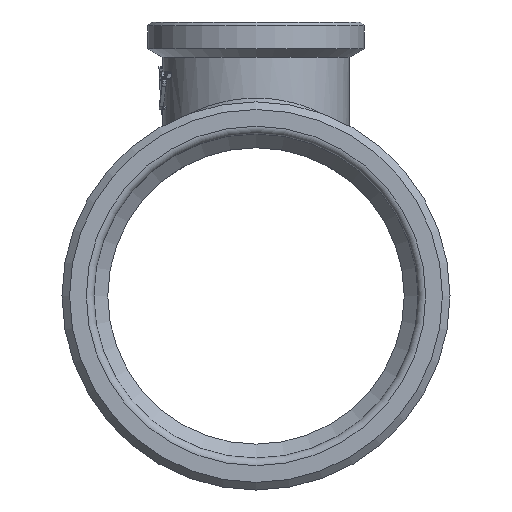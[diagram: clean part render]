
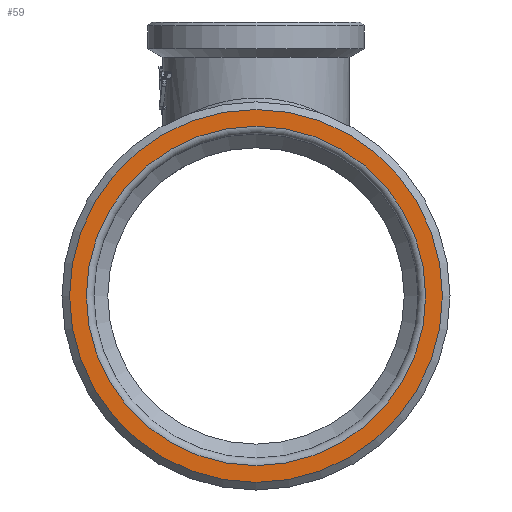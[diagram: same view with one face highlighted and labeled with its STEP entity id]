
A CAD part, front view. The second image highlights one B-rep face of the part: STEP entity #59.
In plain terms, the highlighted planar face has unit normal (0, -1, 0).
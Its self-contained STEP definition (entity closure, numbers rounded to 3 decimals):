
#59=ADVANCED_FACE('',(#525,#527),#529,.F.);
#525=FACE_BOUND('',#526,.T.);
#526=EDGE_LOOP('',(#3090));
#527=FACE_BOUND('',#528,.T.);
#528=EDGE_LOOP('',(#3091));
#529=PLANE('',#530);
#530=AXIS2_PLACEMENT_3D('',#531,#532,#533);
#531=CARTESIAN_POINT('',(0.,-32.,0.));
#532=DIRECTION('',(0.,1.,0.));
#533=DIRECTION('',(-1.,0.,0.));
#3090=ORIENTED_EDGE('',*,*,#5427,.T.);
#3091=ORIENTED_EDGE('',*,*,#5341,.T.);
#5341=EDGE_CURVE('',#6258,#6258,#6259,.F.);
#5427=EDGE_CURVE('',#6430,#6430,#6431,.T.);
#6258=VERTEX_POINT('',#7929);
#6259=CIRCLE('',#7930,22.3);
#6430=VERTEX_POINT('',#8892);
#6431=CIRCLE('',#8893,24.5);
#7929=CARTESIAN_POINT('',(22.3,-32.,0.));
#7930=AXIS2_PLACEMENT_3D('',#7931,#7932,#7933);
#7931=CARTESIAN_POINT('',(0.,-32.,0.));
#7932=DIRECTION('',(0.,-1.,0.));
#7933=DIRECTION('',(1.,0.,0.));
#8892=CARTESIAN_POINT('',(24.5,-32.,0.));
#8893=AXIS2_PLACEMENT_3D('',#8894,#8895,#8896);
#8894=CARTESIAN_POINT('',(0.,-32.,0.));
#8895=DIRECTION('',(0.,-1.,0.));
#8896=DIRECTION('',(1.,0.,0.));
